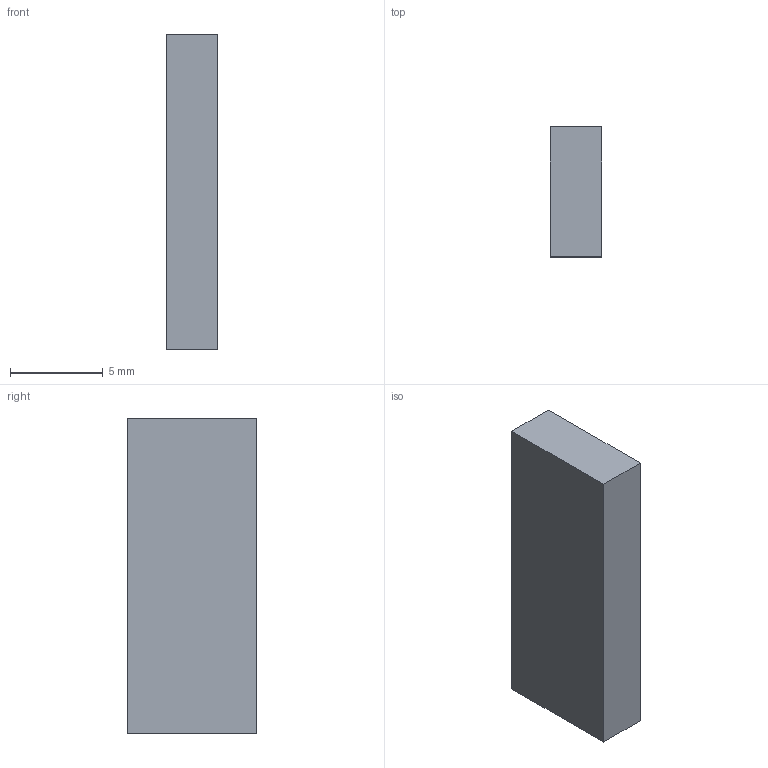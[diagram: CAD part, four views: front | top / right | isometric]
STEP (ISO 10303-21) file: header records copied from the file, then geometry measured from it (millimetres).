
FILE_DESCRIPTION(('Open CASCADE Model'),'2;1');
FILE_NAME('Open CASCADE Shape Model','2026-09-24T05:33:23',('Author'),( 'Open CASCADE'),'Open CASCADE STEP processor 7.8','Open CASCADE 7.8' ,'Unknown');
FILE_SCHEMA(('AUTOMOTIVE_DESIGN { 1 0 10303 214 1 1 1 1 }'));
Length unit declared in the file: millimetre
Products named in the file (1): Open CASCADE STEP translator 7.8 80
Bounding box: 2.8 x 7 x 17 mm (x, y, z)
Volume: 333.2 mm3; surface area: 372.4 mm2
Topology: 1 solids, 1 shells, 6 faces, 12 edges, 8 vertices
Faces by surface type: plane 6
Entity records: 322 total; most frequent: CARTESIAN_POINT 51, DIRECTION 50, LINE 36, VECTOR 36, ORIENTED_EDGE 24, PCURVE 24, DEFINITIONAL_REPRESENTATION 24, EDGE_CURVE 12
